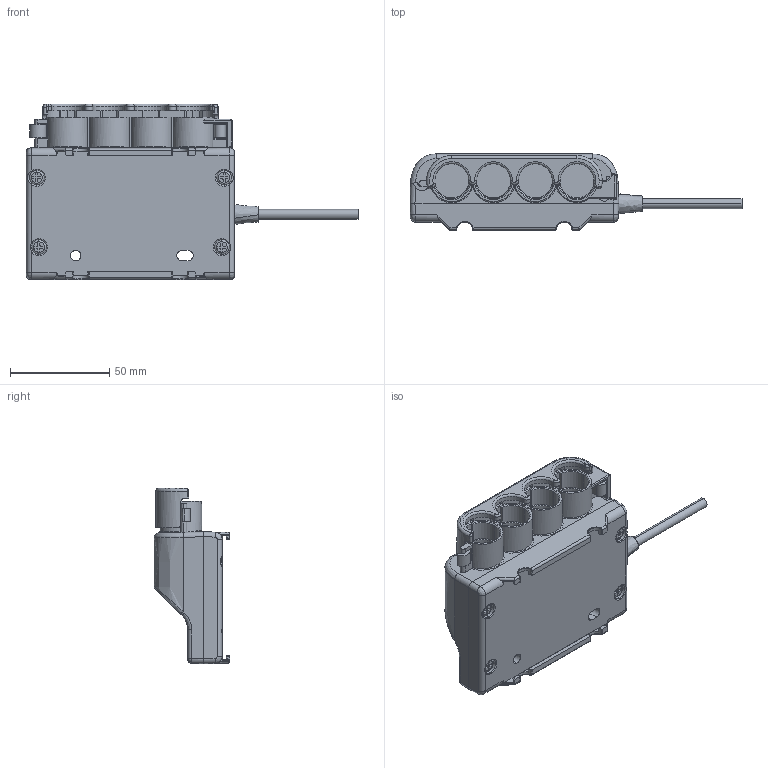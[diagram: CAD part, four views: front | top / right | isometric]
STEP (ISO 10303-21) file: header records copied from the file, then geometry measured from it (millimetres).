
FILE_DESCRIPTION (( 'STEP AP214' ), '1' );
FILE_NAME ('TJB5-A.STEP', '2015-06-03T09:39:35', ( '' ), ( '' ), 'SwSTEP 2.0', 'SolidWorks 2010', '' );
FILE_SCHEMA (( 'AUTOMOTIVE_DESIGN' ));
Length unit declared in the file: millimetre
Products named in the file (1): TJB5-A
Bounding box: 167 x 38.2 x 88.34 mm (x, y, z)
Volume: 193668.2 mm3; surface area: 54804.1 mm2
Topology: 6 solids, 6 shells, 678 faces, 1717 edges, 1048 vertices
Faces by surface type: plane 263, cylinder 232, bspline 101, torus 47, cone 35
Entity records: 30516 total; most frequent: CARTESIAN_POINT 14914, ORIENTED_EDGE 3410, DIRECTION 3068, EDGE_CURVE 1705, AXIS2_PLACEMENT_3D 1107, VERTEX_POINT 1048, VECTOR 854, LINE 854
